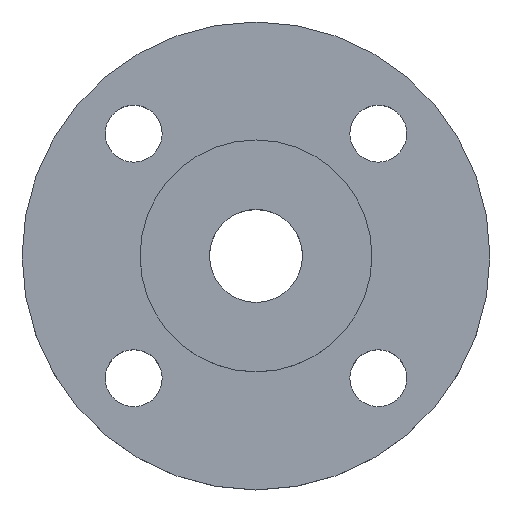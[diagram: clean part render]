
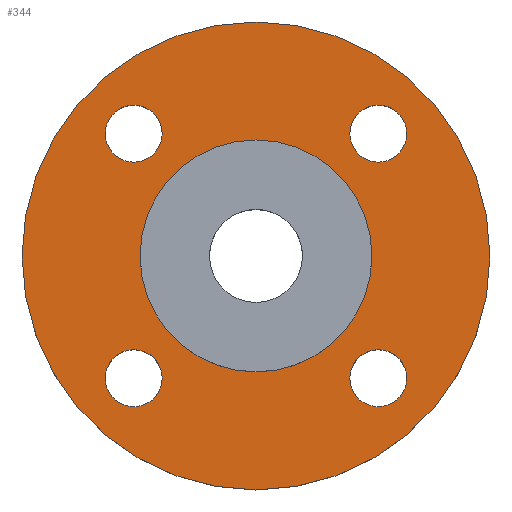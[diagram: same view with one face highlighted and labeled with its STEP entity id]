
A CAD part, top view. The second image highlights one B-rep face of the part: STEP entity #344.
In plain terms, the highlighted planar face has unit normal (0, 0, 1).
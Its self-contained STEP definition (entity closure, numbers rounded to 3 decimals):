
#3 = CARTESIAN_POINT ( 'NONE',  ( 30.052, -30.052, -4.5 ) ) ;
#6 = DIRECTION ( 'NONE',  ( 0., 0., -1. ) ) ;
#7 = DIRECTION ( 'NONE',  ( 1., 0., 0. ) ) ;
#8 = CIRCLE ( 'NONE', #180, 7. ) ;
#30 = EDGE_CURVE ( 'NONE', #414, #419, #8, .T. ) ;
#49 = AXIS2_PLACEMENT_3D ( 'NONE', #151, #131, #155 ) ;
#79 = DIRECTION ( 'NONE',  ( 0., 0., -1. ) ) ;
#81 = CARTESIAN_POINT ( 'NONE',  ( 57.5, 0., -4.5 ) ) ;
#82 = DIRECTION ( 'NONE',  ( 1., 0., 0. ) ) ;
#83 = DIRECTION ( 'NONE',  ( 0., 0., -1. ) ) ;
#84 = CARTESIAN_POINT ( 'NONE',  ( -30.052, -30.052, -4.5 ) ) ;
#98 = CARTESIAN_POINT ( 'NONE',  ( 0., 0., -4.5 ) ) ;
#99 = DIRECTION ( 'NONE',  ( -1., 0., 0. ) ) ;
#104 = DIRECTION ( 'NONE',  ( 0., 0., -1. ) ) ;
#111 = CARTESIAN_POINT ( 'NONE',  ( -30.052, 30.052, -4.5 ) ) ;
#112 = DIRECTION ( 'NONE',  ( 0., 0., -1. ) ) ;
#113 = DIRECTION ( 'NONE',  ( 0., 0., -1. ) ) ;
#115 = CARTESIAN_POINT ( 'NONE',  ( -28.5, 0., -4.5 ) ) ;
#116 = AXIS2_PLACEMENT_3D ( 'NONE', #84, #83, #82 ) ;
#123 = DIRECTION ( 'NONE',  ( 0., 0., -1. ) ) ;
#129 = CARTESIAN_POINT ( 'NONE',  ( -23.052, -30.052, -4.5 ) ) ;
#130 = CARTESIAN_POINT ( 'NONE',  ( 30.052, 30.052, -4.5 ) ) ;
#131 = DIRECTION ( 'NONE',  ( 0., 0., -1. ) ) ;
#132 = AXIS2_PLACEMENT_3D ( 'NONE', #98, #104, #99 ) ;
#133 = DIRECTION ( 'NONE',  ( 1., 0., 0. ) ) ;
#137 = DIRECTION ( 'NONE',  ( 0., 0., -1. ) ) ;
#139 = CIRCLE ( 'NONE', #147, 28.5 ) ;
#140 = DIRECTION ( 'NONE',  ( 1., 0., 0. ) ) ;
#142 = AXIS2_PLACEMENT_3D ( 'NONE', #176, #113, #179 ) ;
#143 = CIRCLE ( 'NONE', #142, 28.5 ) ;
#147 = AXIS2_PLACEMENT_3D ( 'NONE', #365, #79, #392 ) ;
#151 = CARTESIAN_POINT ( 'NONE',  ( 30.052, 30.052, -4.5 ) ) ;
#155 = DIRECTION ( 'NONE',  ( 1., 0., 0. ) ) ;
#159 = CARTESIAN_POINT ( 'NONE',  ( -30.052, -30.052, -4.5 ) ) ;
#161 = CARTESIAN_POINT ( 'NONE',  ( 37.052, -30.052, -4.5 ) ) ;
#163 = DIRECTION ( 'NONE',  ( 1., 0., 0. ) ) ;
#164 = CIRCLE ( 'NONE', #213, 7. ) ;
#166 = CARTESIAN_POINT ( 'NONE',  ( 23.052, -30.052, -4.5 ) ) ;
#170 = CIRCLE ( 'NONE', #171, 7. ) ;
#171 = AXIS2_PLACEMENT_3D ( 'NONE', #159, #123, #163 ) ;
#176 = CARTESIAN_POINT ( 'NONE',  ( 0., 0., -4.5 ) ) ;
#177 = CIRCLE ( 'NONE', #49, 7. ) ;
#179 = DIRECTION ( 'NONE',  ( -1., 0., 0. ) ) ;
#180 = AXIS2_PLACEMENT_3D ( 'NONE', #601, #602, #603 ) ;
#184 = FACE_BOUND ( 'NONE', #565, .T. ) ;
#185 = FACE_BOUND ( 'NONE', #480, .T. ) ;
#187 = FACE_BOUND ( 'NONE', #503, .T. ) ;
#188 = FACE_BOUND ( 'NONE', #569, .T. ) ;
#189 = FACE_OUTER_BOUND ( 'NONE', #555, .T. ) ;
#191 = PLANE ( 'NONE',  #312 ) ;
#192 = CARTESIAN_POINT ( 'NONE',  ( 28.5, 0., -4.5 ) ) ;
#193 = DIRECTION ( 'NONE',  ( 0., 0., 1. ) ) ;
#194 = DIRECTION ( 'NONE',  ( 1., 0., 0. ) ) ;
#213 = AXIS2_PLACEMENT_3D ( 'NONE', #111, #112, #140 ) ;
#262 = CIRCLE ( 'NONE', #315, 7. ) ;
#273 = CARTESIAN_POINT ( 'NONE',  ( 37.052, 30.052, -4.5 ) ) ;
#276 = CARTESIAN_POINT ( 'NONE',  ( -37.052, -30.052, -4.5 ) ) ;
#286 = AXIS2_PLACEMENT_3D ( 'NONE', #130, #137, #133 ) ;
#298 = CARTESIAN_POINT ( 'NONE',  ( 23.052, 30.052, -4.5 ) ) ;
#302 = EDGE_CURVE ( 'NONE', #491, #576, #336, .T. ) ;
#312 = AXIS2_PLACEMENT_3D ( 'NONE', #192, #193, #194 ) ;
#315 = AXIS2_PLACEMENT_3D ( 'NONE', #3, #6, #7 ) ;
#318 = AXIS2_PLACEMENT_3D ( 'NONE', #381, #713, #714 ) ;
#323 = CIRCLE ( 'NONE', #318, 7. ) ;
#324 = CIRCLE ( 'NONE', #132, 57.5 ) ;
#326 = EDGE_CURVE ( 'NONE', #404, #403, #323, .T. ) ;
#333 = AXIS2_PLACEMENT_3D ( 'NONE', #679, #680, #681 ) ;
#335 = CARTESIAN_POINT ( 'NONE',  ( -57.5, 0., -4.5 ) ) ;
#336 = CIRCLE ( 'NONE', #333, 57.5 ) ;
#339 = EDGE_CURVE ( 'NONE', #419, #414, #262, .T. ) ;
#344 = ADVANCED_FACE ( 'NONE', ( #383, #184, #185, #187, #188, #189 ), #191, .T. ) ;
#345 = CARTESIAN_POINT ( 'NONE',  ( -37.052, 30.052, -4.5 ) ) ;
#346 = CARTESIAN_POINT ( 'NONE',  ( -23.052, 30.052, -4.5 ) ) ;
#348 = CARTESIAN_POINT ( 'NONE',  ( 28.5, 0., -4.5 ) ) ;
#365 = CARTESIAN_POINT ( 'NONE',  ( 0., 0., -4.5 ) ) ;
#381 = CARTESIAN_POINT ( 'NONE',  ( -30.052, 30.052, -4.5 ) ) ;
#383 = FACE_BOUND ( 'NONE', #568, .T. ) ;
#392 = DIRECTION ( 'NONE',  ( -1., 0., 0. ) ) ;
#395 = VERTEX_POINT ( 'NONE', #273 ) ;
#397 = VERTEX_POINT ( 'NONE', #276 ) ;
#403 = VERTEX_POINT ( 'NONE', #345 ) ;
#404 = VERTEX_POINT ( 'NONE', #346 ) ;
#406 = VERTEX_POINT ( 'NONE', #348 ) ;
#414 = VERTEX_POINT ( 'NONE', #166 ) ;
#419 = VERTEX_POINT ( 'NONE', #161 ) ;
#432 = VERTEX_POINT ( 'NONE', #115 ) ;
#444 = EDGE_CURVE ( 'NONE', #403, #404, #164, .T. ) ;
#448 = EDGE_CURVE ( 'NONE', #395, #574, #716, .T. ) ;
#455 = EDGE_CURVE ( 'NONE', #574, #395, #177, .T. ) ;
#461 = VERTEX_POINT ( 'NONE', #129 ) ;
#476 = EDGE_CURVE ( 'NONE', #397, #461, #170, .T. ) ;
#480 = EDGE_LOOP ( 'NONE', ( #487, #489 ) ) ;
#481 = ORIENTED_EDGE ( 'NONE', *, *, #339, .T. ) ;
#482 = ORIENTED_EDGE ( 'NONE', *, *, #30, .T. ) ;
#485 = ORIENTED_EDGE ( 'NONE', *, *, #575, .T. ) ;
#486 = ORIENTED_EDGE ( 'NONE', *, *, #476, .T. ) ;
#487 = ORIENTED_EDGE ( 'NONE', *, *, #326, .T. ) ;
#489 = ORIENTED_EDGE ( 'NONE', *, *, #444, .T. ) ;
#490 = ORIENTED_EDGE ( 'NONE', *, *, #448, .T. ) ;
#491 = VERTEX_POINT ( 'NONE', #335 ) ;
#492 = ORIENTED_EDGE ( 'NONE', *, *, #455, .T. ) ;
#495 = ORIENTED_EDGE ( 'NONE', *, *, #509, .T. ) ;
#497 = ORIENTED_EDGE ( 'NONE', *, *, #514, .T. ) ;
#498 = ORIENTED_EDGE ( 'NONE', *, *, #537, .F. ) ;
#499 = ORIENTED_EDGE ( 'NONE', *, *, #302, .F. ) ;
#503 = EDGE_LOOP ( 'NONE', ( #490, #492 ) ) ;
#509 = EDGE_CURVE ( 'NONE', #432, #406, #139, .T. ) ;
#514 = EDGE_CURVE ( 'NONE', #406, #432, #143, .T. ) ;
#537 = EDGE_CURVE ( 'NONE', #576, #491, #324, .T. ) ;
#555 = EDGE_LOOP ( 'NONE', ( #498, #499 ) ) ;
#565 = EDGE_LOOP ( 'NONE', ( #485, #486 ) ) ;
#568 = EDGE_LOOP ( 'NONE', ( #481, #482 ) ) ;
#569 = EDGE_LOOP ( 'NONE', ( #495, #497 ) ) ;
#574 = VERTEX_POINT ( 'NONE', #298 ) ;
#575 = EDGE_CURVE ( 'NONE', #461, #397, #634, .T. ) ;
#576 = VERTEX_POINT ( 'NONE', #81 ) ;
#601 = CARTESIAN_POINT ( 'NONE',  ( 30.052, -30.052, -4.5 ) ) ;
#602 = DIRECTION ( 'NONE',  ( 0., 0., -1. ) ) ;
#603 = DIRECTION ( 'NONE',  ( 1., 0., 0. ) ) ;
#634 = CIRCLE ( 'NONE', #116, 7. ) ;
#679 = CARTESIAN_POINT ( 'NONE',  ( 0., 0., -4.5 ) ) ;
#680 = DIRECTION ( 'NONE',  ( 0., 0., -1. ) ) ;
#681 = DIRECTION ( 'NONE',  ( -1., 0., 0. ) ) ;
#713 = DIRECTION ( 'NONE',  ( 0., 0., -1. ) ) ;
#714 = DIRECTION ( 'NONE',  ( 1., 0., 0. ) ) ;
#716 = CIRCLE ( 'NONE', #286, 7. ) ;
